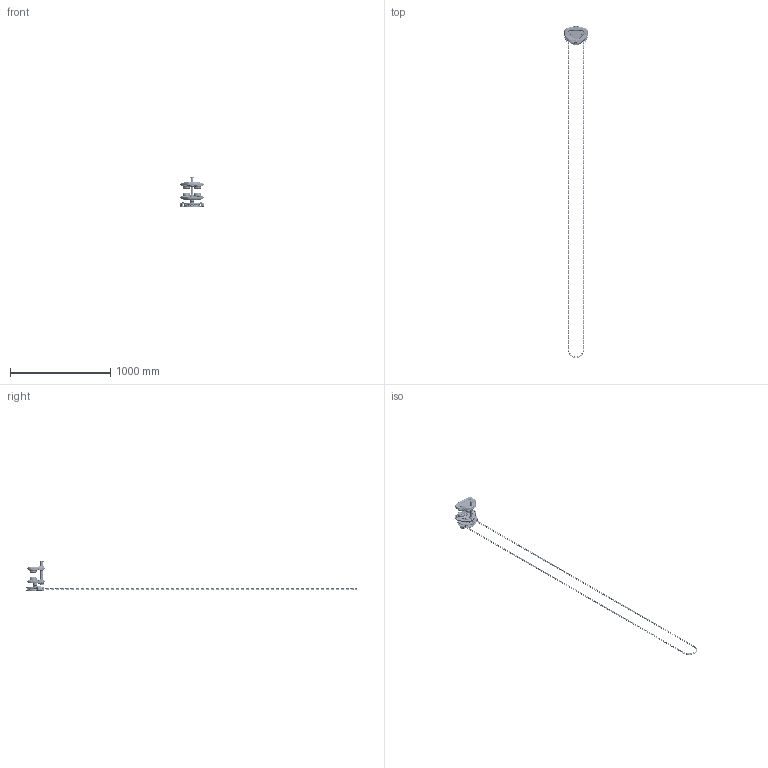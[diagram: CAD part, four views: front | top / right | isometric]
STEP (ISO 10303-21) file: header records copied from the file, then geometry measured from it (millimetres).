
FILE_DESCRIPTION (( 'STEP AP214' ), '1' );
FILE_NAME ('GTF2010.STEP', '2026-08-13T13:07:09', ( '' ), ( '' ), 'SwSTEP 2.0', 'SolidWorks 2026', '' );
FILE_SCHEMA (( 'AUTOMOTIVE_DESIGN' ));
Length unit declared in the file: inch
Products named in the file (28): 9047115_9047115; MS104010; T6G5102010; GTF2010; T6G5111010; T7GC121010; T6GA0109125; T6GA0109113; T6G5121010; 9009423_9009423; T6GA0109111; T6G123010; T6G5101010; 6302Z BEARING; T6GC0109128; T6GA0109112; HCCF005; T6G800010G; HCCF005 for GT2010; T6GA0109101; T6GA0109102; T6GA0109126; T6GA0109103; T7G117010; T6G5112010; L4082090_L4082090; T7G115010; T6G156010
Assembly tree (314 placements, depth 3):
  GTF2010
    T6G5112010
      T6GA0109112
      T6GA0109113
      T6GA0109103  x2
    T6G5111010
      T6GA0109111
      T6GA0109113
      T6GA0109103  x2
      T6GC0109128
    T6G5101010  x2
      T6GA0109102
      6302Z BEARING
    T6G5102010  x2
      T6GA0109101
      6302Z BEARING
    MS104010  x4
    9047115_9047115  x4
    T6G800010G
    T7G115010
    T7G117010
    T6G156010  x2
    9009423_9009423  x3
    T6G5121010
      T6GA0109125
      T6GA0109126
    T6G123010
    L4082090_L4082090
    T7GC121010
    HCCF005 for GT2010
      HCCF005  x270
    HCCF005  x2
Bounding box: 247.13 x 3319.02 x 309.21 mm (x, y, z)
Volume: 1638996 mm3; surface area: 941800.2 mm2
Topology: 306 solids, 322 shells, 8289 faces, 20667 edges, 12644 vertices
Faces by surface type: cylinder 2804, plane 2710, torus 2131, cone 354, bspline 290
Entity records: 114717 total; most frequent: CARTESIAN_POINT 40164, ORIENTED_EDGE 16444, DIRECTION 13519, EDGE_CURVE 8224, AXIS2_PLACEMENT_3D 5440, VERTEX_POINT 5293, EDGE_LOOP 3167, ADVANCED_FACE 3031
